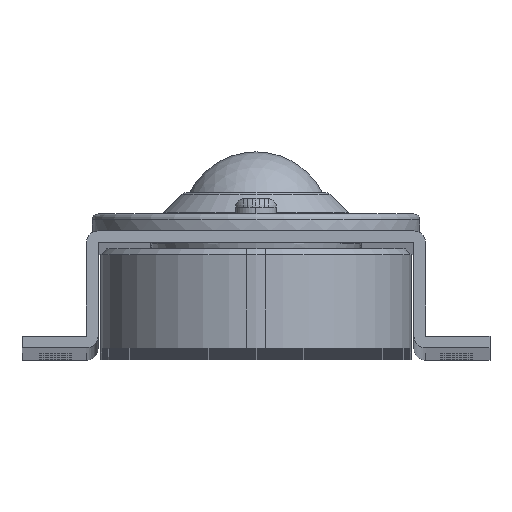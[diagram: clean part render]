
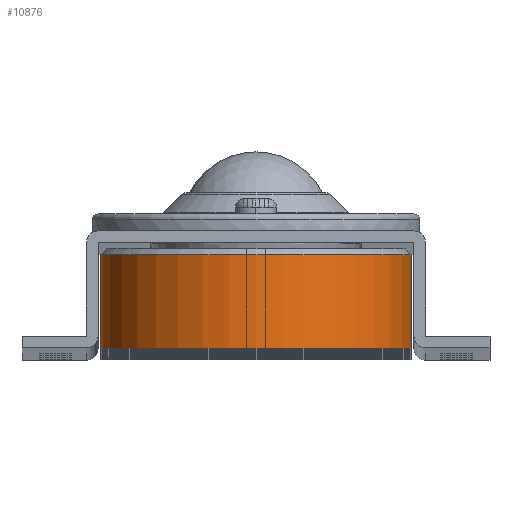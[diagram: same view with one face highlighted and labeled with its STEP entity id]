
A CAD part, top view. The second image highlights one B-rep face of the part: STEP entity #10876.
In plain terms, the highlighted cylindrical face has radius 26.5 mm (diameter 53 mm), a partial arc.
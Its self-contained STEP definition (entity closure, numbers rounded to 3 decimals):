
#763 = EDGE_CURVE ( 'NONE', #20606, #22376, #15278, .T. ) ;
#1839 = CIRCLE ( 'NONE', #11208, 26.5 ) ;
#2714 = VECTOR ( 'NONE', #28628, 1000. ) ;
#2876 = EDGE_LOOP ( 'NONE', ( #16353, #27602, #11218, #29517 ) ) ;
#3808 = CARTESIAN_POINT ( 'NONE',  ( 26.5, 0., -50. ) ) ;
#4414 = CARTESIAN_POINT ( 'NONE',  ( 26.5, 16., -50. ) ) ;
#5073 = EDGE_CURVE ( 'NONE', #15856, #14427, #28787, .T. ) ;
#6337 = AXIS2_PLACEMENT_3D ( 'NONE', #12961, #15320, #24655 ) ;
#6358 = CARTESIAN_POINT ( 'NONE',  ( 0., 0., -50. ) ) ;
#7159 = CARTESIAN_POINT ( 'NONE',  ( 26.5, 33.6, -50. ) ) ;
#8750 = DIRECTION ( 'NONE',  ( -1., 0., 0. ) ) ;
#9021 = FACE_OUTER_BOUND ( 'NONE', #2876, .T. ) ;
#9383 = EDGE_CURVE ( 'NONE', #14427, #22376, #21980, .T. ) ;
#9556 = DIRECTION ( 'NONE',  ( 0., 1., 0. ) ) ;
#10320 = CARTESIAN_POINT ( 'NONE',  ( 0., 16., -50. ) ) ;
#10486 = AXIS2_PLACEMENT_3D ( 'NONE', #10320, #26774, #12690 ) ;
#10757 = VECTOR ( 'NONE', #9556, 1000. ) ;
#10876 = ADVANCED_FACE ( 'NONE', ( #9021 ), #26310, .T. ) ;
#11208 = AXIS2_PLACEMENT_3D ( 'NONE', #6358, #22838, #8750 ) ;
#11218 = ORIENTED_EDGE ( 'NONE', *, *, #9383, .F. ) ;
#11314 = CARTESIAN_POINT ( 'NONE',  ( -26.5, 16., -50. ) ) ;
#12690 = DIRECTION ( 'NONE',  ( -1., 0., 0. ) ) ;
#12961 = CARTESIAN_POINT ( 'NONE',  ( 0., 33.6, -50. ) ) ;
#14290 = CARTESIAN_POINT ( 'NONE',  ( -26.5, 33.6, -50. ) ) ;
#14364 = EDGE_CURVE ( 'NONE', #15856, #20606, #1839, .T. ) ;
#14427 = VERTEX_POINT ( 'NONE', #11314 ) ;
#15278 = LINE ( 'NONE', #7159, #2714 ) ;
#15320 = DIRECTION ( 'NONE',  ( 0., 1., 0. ) ) ;
#15856 = VERTEX_POINT ( 'NONE', #17727 ) ;
#16353 = ORIENTED_EDGE ( 'NONE', *, *, #14364, .T. ) ;
#17727 = CARTESIAN_POINT ( 'NONE',  ( -26.5, 0., -50. ) ) ;
#20606 = VERTEX_POINT ( 'NONE', #3808 ) ;
#21980 = CIRCLE ( 'NONE', #10486, 26.5 ) ;
#22376 = VERTEX_POINT ( 'NONE', #4414 ) ;
#22838 = DIRECTION ( 'NONE',  ( 0., 1., 0. ) ) ;
#24655 = DIRECTION ( 'NONE',  ( -1., 0., 0. ) ) ;
#26310 = CYLINDRICAL_SURFACE ( 'NONE', #6337, 26.5 ) ;
#26774 = DIRECTION ( 'NONE',  ( 0., 1., 0. ) ) ;
#27602 = ORIENTED_EDGE ( 'NONE', *, *, #763, .T. ) ;
#28628 = DIRECTION ( 'NONE',  ( 0., 1., 0. ) ) ;
#28787 = LINE ( 'NONE', #14290, #10757 ) ;
#29517 = ORIENTED_EDGE ( 'NONE', *, *, #5073, .F. ) ;
